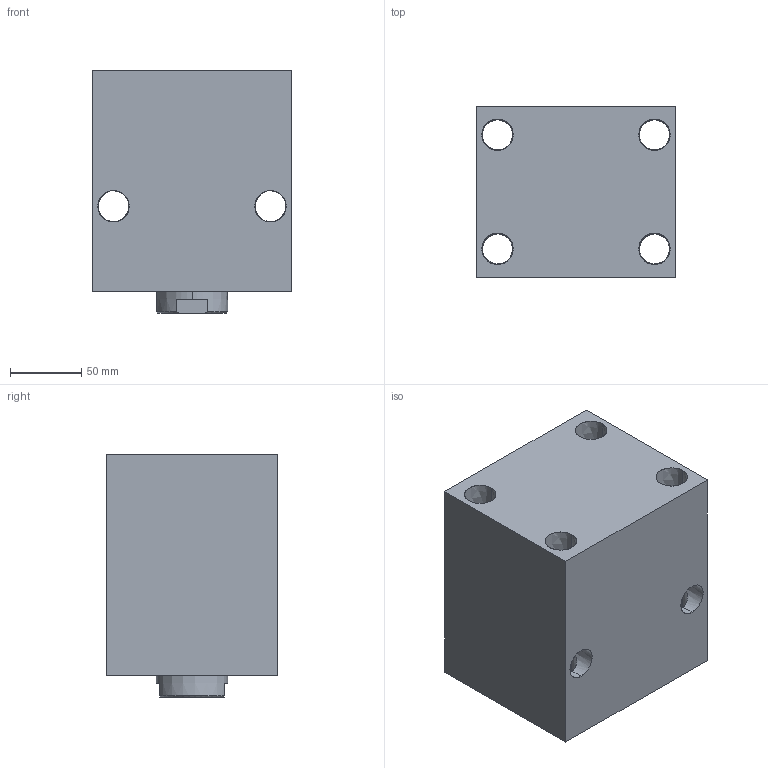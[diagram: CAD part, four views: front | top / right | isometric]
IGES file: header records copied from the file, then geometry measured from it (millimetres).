
Start section: SolidWorks IGES file using analytic representation for surfaces
Global section: file name: D:\karuppas\Clasp\3D model\Block cylinder B01C-Female thread\B01C-875F\Block cylinder B01C-875F.IGS; native system: SolidWorks 2017; preprocessor: SolidWorks 2017; author: pc; date: 220710.000948; units: millimetre
Bounding box: 140 x 120 x 170 mm (x, y, z)
Surface area: 202267.6 mm2 (no closed solid volume)
Topology: 0 solids, 0 shells, 346 faces, 5307 edges, 5301 vertices
Faces by surface type: bspline 294, revolution 52
